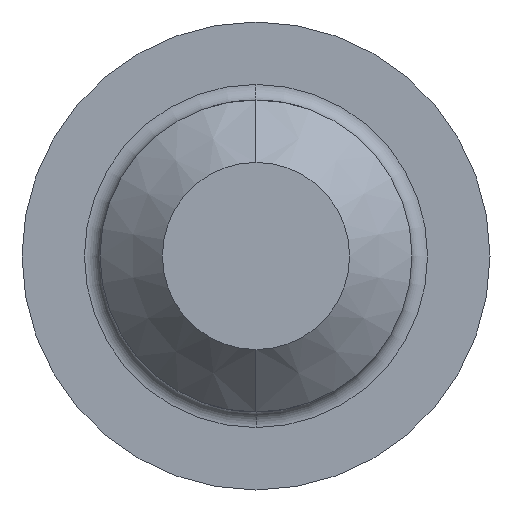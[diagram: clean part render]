
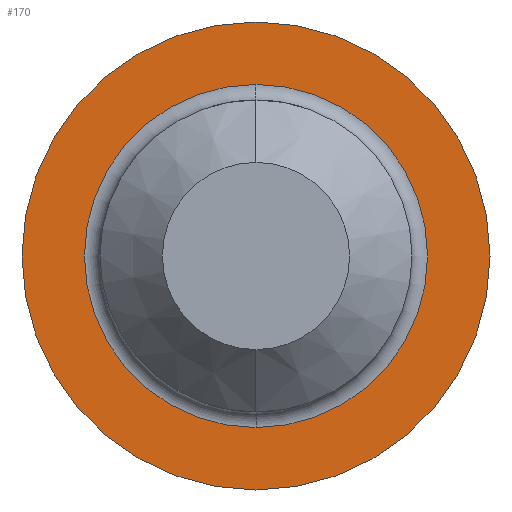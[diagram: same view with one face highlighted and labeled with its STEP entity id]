
A CAD part, left-side view. The second image highlights one B-rep face of the part: STEP entity #170.
In plain terms, the highlighted planar face has unit normal (-1, 0, 0).
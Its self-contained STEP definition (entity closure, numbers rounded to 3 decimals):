
#43 = EDGE_CURVE ( 'NONE', #44, #46, #301, .T. ) ;
#44 = VERTEX_POINT ( 'NONE', #290 ) ;
#46 = VERTEX_POINT ( 'NONE', #295 ) ;
#86 = ORIENTED_EDGE ( 'NONE', *, *, #169, .T. ) ;
#113 = EDGE_LOOP ( 'NONE', ( #118, #86 ) ) ;
#114 = EDGE_LOOP ( 'NONE', ( #167, #115 ) ) ;
#115 = ORIENTED_EDGE ( 'NONE', *, *, #136, .T. ) ;
#116 = EDGE_CURVE ( 'NONE', #134, #137, #358, .T. ) ;
#118 = ORIENTED_EDGE ( 'NONE', *, *, #43, .T. ) ;
#134 = VERTEX_POINT ( 'NONE', #450 ) ;
#136 = EDGE_CURVE ( 'NONE', #137, #134, #465, .T. ) ;
#137 = VERTEX_POINT ( 'NONE', #359 ) ;
#167 = ORIENTED_EDGE ( 'NONE', *, *, #116, .T. ) ;
#169 = EDGE_CURVE ( 'NONE', #46, #44, #380, .T. ) ;
#170 = ADVANCED_FACE ( 'NONE', ( #377, #388 ), #368, .F. ) ;
#278 = DIRECTION ( 'NONE',  ( 0., 0., 1. ) ) ;
#279 = DIRECTION ( 'NONE',  ( -1., 0., 0. ) ) ;
#290 = CARTESIAN_POINT ( 'NONE',  ( 0., 0., 4.5 ) ) ;
#295 = CARTESIAN_POINT ( 'NONE',  ( 0., 0., -4.5 ) ) ;
#300 = CARTESIAN_POINT ( 'NONE',  ( 0., 0., 0. ) ) ;
#301 = CIRCLE ( 'NONE', #303, 4.5 ) ;
#303 = AXIS2_PLACEMENT_3D ( 'NONE', #300, #279, #278 ) ;
#339 = DIRECTION ( 'NONE',  ( 0., 0., -1. ) ) ;
#340 = DIRECTION ( 'NONE',  ( 1., 0., 0. ) ) ;
#341 = CARTESIAN_POINT ( 'NONE',  ( 0., 0., 0. ) ) ;
#342 = AXIS2_PLACEMENT_3D ( 'NONE', #341, #340, #339 ) ;
#344 = AXIS2_PLACEMENT_3D ( 'NONE', #430, #429, #428 ) ;
#358 = CIRCLE ( 'NONE', #342, 3.3 ) ;
#359 = CARTESIAN_POINT ( 'NONE',  ( 0., 0., 3.3 ) ) ;
#368 = PLANE ( 'NONE',  #381 ) ;
#371 = DIRECTION ( 'NONE',  ( 0., 0., 1. ) ) ;
#372 = DIRECTION ( 'NONE',  ( -1., 0., 0. ) ) ;
#373 = CARTESIAN_POINT ( 'NONE',  ( 0., 0., 0. ) ) ;
#375 = DIRECTION ( 'NONE',  ( 1., 0., 0. ) ) ;
#376 = CARTESIAN_POINT ( 'NONE',  ( 0., 4.5, 0. ) ) ;
#377 = FACE_BOUND ( 'NONE', #114, .T. ) ;
#379 = AXIS2_PLACEMENT_3D ( 'NONE', #373, #372, #371 ) ;
#380 = CIRCLE ( 'NONE', #379, 4.5 ) ;
#381 = AXIS2_PLACEMENT_3D ( 'NONE', #376, #375, #445 ) ;
#388 = FACE_OUTER_BOUND ( 'NONE', #113, .T. ) ;
#428 = DIRECTION ( 'NONE',  ( 0., 0., -1. ) ) ;
#429 = DIRECTION ( 'NONE',  ( 1., 0., 0. ) ) ;
#430 = CARTESIAN_POINT ( 'NONE',  ( 0., 0., 0. ) ) ;
#445 = DIRECTION ( 'NONE',  ( 0., 0., -1. ) ) ;
#450 = CARTESIAN_POINT ( 'NONE',  ( 0., 0., -3.3 ) ) ;
#465 = CIRCLE ( 'NONE', #344, 3.3 ) ;
